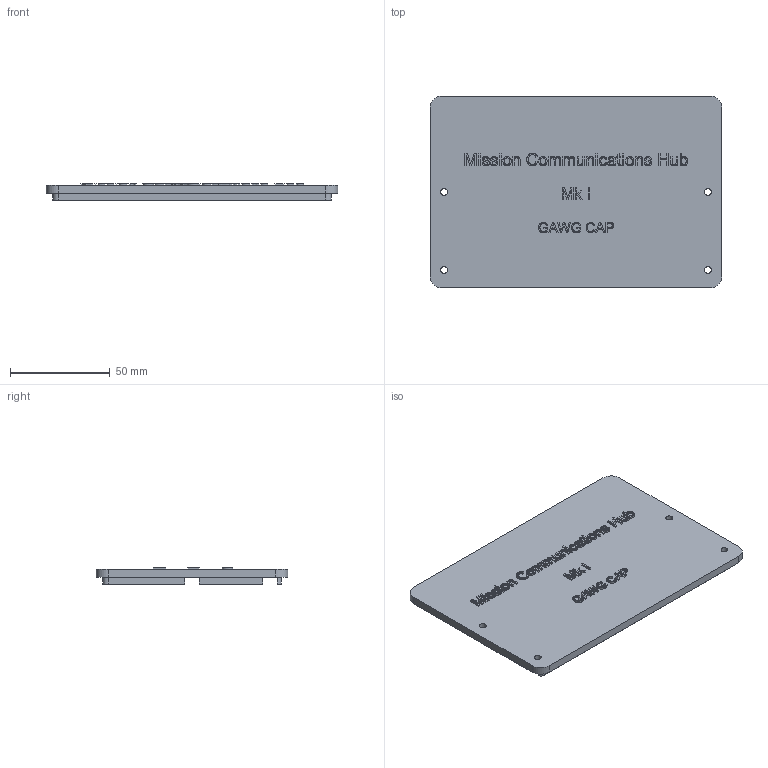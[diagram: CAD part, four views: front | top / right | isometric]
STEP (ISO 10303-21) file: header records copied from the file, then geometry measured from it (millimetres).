
FILE_DESCRIPTION(('Open CASCADE Model'),'2;1');
FILE_NAME('Open CASCADE Shape Model','2026-07-23T08:32:27',('Author'),( 'Open CASCADE'),'Open CASCADE STEP processor 7.9','Open CASCADE 7.9' ,'Unknown');
FILE_SCHEMA(('AUTOMOTIVE_DESIGN { 1 0 10303 214 1 1 1 1 }'));
Products named in the file (1): Open CASCADE STEP translator 7.9 2
Bounding box: 146 x 96 x 8.3 mm (x, y, z)
Volume: 58803.4 mm3; surface area: 33645.9 mm2
Topology: 1 solids, 1 shells, 742 faces, 2079 edges, 1386 vertices
Faces by surface type: extrusion 415, plane 309, cylinder 18
Full cylindrical faces by diameter (mm): 3.4 x4, 10.3 x4
Entity records: 51356 total; most frequent: CARTESIAN_POINT 12782, DIRECTION 5614, VECTOR 4838, LINE 4423, ORIENTED_EDGE 4158, PCURVE 4158, DEFINITIONAL_REPRESENTATION 4158, B_SPLINE_CURVE_WITH_KNOTS 2125
